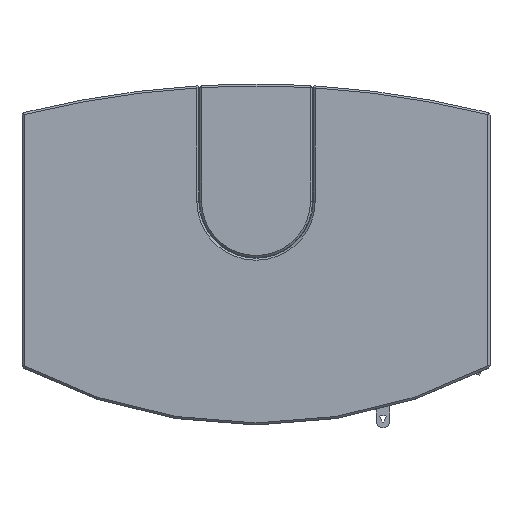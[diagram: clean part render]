
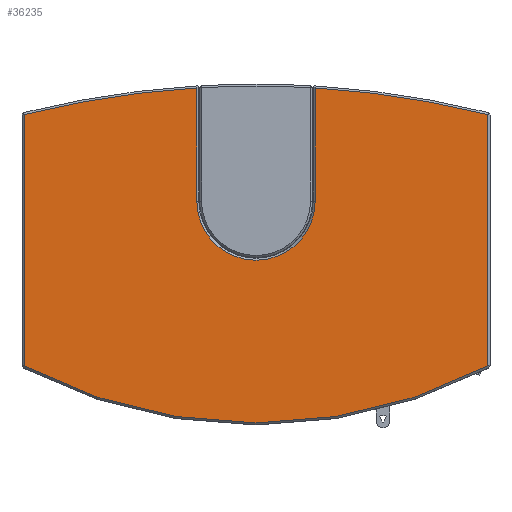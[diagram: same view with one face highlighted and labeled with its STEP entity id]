
A CAD part, top view. The second image highlights one B-rep face of the part: STEP entity #36235.
In plain terms, the highlighted planar face has unit normal (0, 0, 1).
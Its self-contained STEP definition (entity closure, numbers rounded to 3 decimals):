
#599=PLANE('',#38154);
#1775=FACE_OUTER_BOUND('',#3596,.T.);
#3596=EDGE_LOOP('',(#23644,#23645,#23646,#23647,#23648,#23649,#23650,#23651));
#5715=LINE('',#51293,#9566);
#5719=LINE('',#51321,#9570);
#5751=LINE('',#51430,#9602);
#5755=LINE('',#51437,#9606);
#9566=VECTOR('',#41347,10.);
#9570=VECTOR('',#41365,10.);
#9602=VECTOR('',#41471,10.);
#9606=VECTOR('',#41479,10.);
#13378=CIRCLE('',#38099,1427.);
#13379=CIRCLE('',#38101,1427.);
#13392=CIRCLE('',#38136,744.904);
#13394=CIRCLE('',#38145,88.);
#14668=VERTEX_POINT('',#51287);
#14669=VERTEX_POINT('',#51292);
#14671=VERTEX_POINT('',#51298);
#14672=VERTEX_POINT('',#51304);
#14673=VERTEX_POINT('',#51309);
#14676=VERTEX_POINT('',#51319);
#14694=VERTEX_POINT('',#51396);
#14698=VERTEX_POINT('',#51411);
#18089=EDGE_CURVE('',#14668,#14669,#5715,.T.);
#18093=EDGE_CURVE('',#14671,#14668,#13378,.T.);
#18095=EDGE_CURVE('',#14672,#14673,#13379,.T.);
#18100=EDGE_CURVE('',#14676,#14672,#5719,.T.);
#18144=EDGE_CURVE('',#14698,#14694,#13392,.T.);
#18150=EDGE_CURVE('',#14694,#14671,#5751,.T.);
#18154=EDGE_CURVE('',#14673,#14698,#5755,.T.);
#18158=EDGE_CURVE('',#14669,#14676,#13394,.T.);
#23644=ORIENTED_EDGE('',*,*,#18100,.F.);
#23645=ORIENTED_EDGE('',*,*,#18158,.F.);
#23646=ORIENTED_EDGE('',*,*,#18089,.F.);
#23647=ORIENTED_EDGE('',*,*,#18093,.F.);
#23648=ORIENTED_EDGE('',*,*,#18150,.F.);
#23649=ORIENTED_EDGE('',*,*,#18144,.F.);
#23650=ORIENTED_EDGE('',*,*,#18154,.F.);
#23651=ORIENTED_EDGE('',*,*,#18095,.F.);
#36235=ADVANCED_FACE('',(#1775),#599,.T.);
#38099=AXIS2_PLACEMENT_3D('',#51302,#41353,#41354);
#38101=AXIS2_PLACEMENT_3D('',#51310,#41357,#41358);
#38136=AXIS2_PLACEMENT_3D('',#51420,#41457,#41458);
#38145=AXIS2_PLACEMENT_3D('',#51443,#41487,#41488);
#38154=AXIS2_PLACEMENT_3D('',#51456,#41509,#41510);
#41347=DIRECTION('',(0.,-1.,0.));
#41353=DIRECTION('center_axis',(0.,0.,
-1.));
#41354=DIRECTION('ref_axis',(0.243,0.97,0.));
#41357=DIRECTION('center_axis',(0.,0.,
-1.));
#41358=DIRECTION('ref_axis',(0.243,0.97,0.));
#41365=DIRECTION('',(0.,1.,0.));
#41457=DIRECTION('center_axis',(0.,0.,
-1.));
#41458=DIRECTION('ref_axis',(-0.465,-0.885,0.));
#41471=DIRECTION('',(0.,1.,0.));
#41479=DIRECTION('',(0.,-1.,0.));
#41487=DIRECTION('center_axis',(0.,0.,
1.));
#41488=DIRECTION('ref_axis',(0.028,-1.,0.));
#41509=DIRECTION('center_axis',(0.,0.,
1.));
#41510=DIRECTION('ref_axis',(1.,0.,0.));
#51287=CARTESIAN_POINT('',(-88.,242.284,66.));
#51292=CARTESIAN_POINT('',(-88.,74.,66.));
#51293=CARTESIAN_POINT('',(-88.,33.75,66.));
#51298=CARTESIAN_POINT('',(-345.,202.667,66.));
#51302=CARTESIAN_POINT('Origin',(0.,-1182.,
66.));
#51304=CARTESIAN_POINT('',(88.,242.284,66.));
#51309=CARTESIAN_POINT('',(345.,202.667,66.));
#51310=CARTESIAN_POINT('Origin',(0.,-1182.,
66.));
#51319=CARTESIAN_POINT('',(88.,74.,66.));
#51321=CARTESIAN_POINT('',(88.,133.75,66.));
#51396=CARTESIAN_POINT('',(-345.,-171.195,66.));
#51411=CARTESIAN_POINT('',(345.,-171.195,66.));
#51420=CARTESIAN_POINT('Origin',(0.,489.,
66.));
#51430=CARTESIAN_POINT('',(-345.,-89.755,66.));
#51437=CARTESIAN_POINT('',(345.,99.255,66.));
#51443=CARTESIAN_POINT('Origin',(0.,74.,
66.));
#51456=CARTESIAN_POINT('Origin',(0.,-6.5,
66.));
